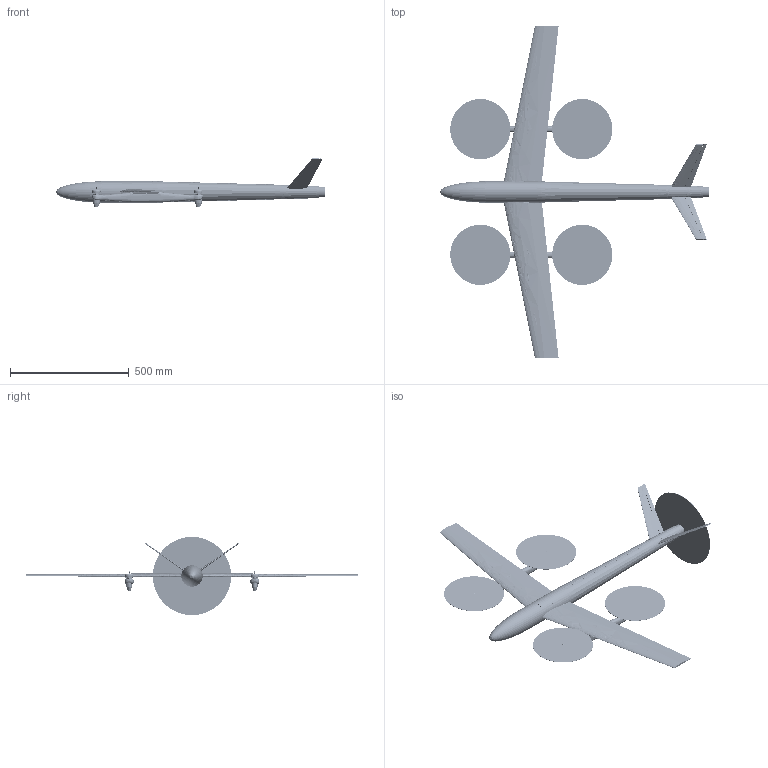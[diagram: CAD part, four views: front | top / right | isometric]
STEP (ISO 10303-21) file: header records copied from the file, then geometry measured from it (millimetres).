
FILE_DESCRIPTION(('Open CASCADE Model'),'2;1');
FILE_NAME('Open CASCADE Shape Model','2026-11-09T19:58:13',('Author'),( 'Open CASCADE'),'Open CASCADE STEP processor 7.9','Open CASCADE 7.9' ,'Unknown');
FILE_SCHEMA(('AUTOMOTIVE_DESIGN { 1 0 10303 214 1 1 1 1 }'));
Length unit declared in the file: millimetre
Products named in the file (112): RescU_R15_Full_Aircraft; Fuselage; Avionics_Adjust_Strips_Fuselage; Avionics_Deck_GFRP_Fuselage; Battery_End_Stops_GFRP_Fuselage; Battery_Insulating_Pads_Foam_Fuselage; Battery_Trays_GFRP_Fuselage; ESC_Deck_GFRP_Fuselage; ESC_Pads_Foam_Fuselage; Frames_Lower_and_Battery_Saddles_GFRP_Fuselage; Frames_Ring_GFRP_Fuselage; Fuselage_Seam_Strips_GFRP_Fuselage; Fuselage_Shell_Left_GFRP_Fuselage; Fuselage_Shell_Right_GFRP_Fuselage; Hatch_Front_GFRP_Fuselage; Hatch_Rear_GFRP_Fuselage; Hatch_Rims_GFRP_Fuselage; Hatch_Tail_GFRP_Fuselage; Joiner_Axial_Stop_Ring_Fuselage; Joiner_Receiver_Sleeves_GFRP_Fuselage; Pusher_Bonded_Collar_GFRP_Fuselage; Pusher_Removable_Plate_6061_Fuselage; REF_Battery_Modules_75x68x47_Fuselage; REF_Camera_AI_PROVISIONAL_Fuselage; REF_ESC_AIR40A_x4_Fuselage; REF_Flight_Controller_Cube_Fuselage; REF_M65A_Cells_6S2P_Fuselage; REF_MT4008_Envelope_AWAITING_CAD_Fuselage; REF_Payload_Mount_Plate_Fuselage; REF_Pusher_Prop_13in_Disk_Fuselage; REF_Receiver_Fuselage; REF_VTail_Servos_Fuselage; VTail_Root_Receivers_GFRP_Fuselage; Wing_Joiner_CFRP_OD12_Fuselage; Wing_Root_Side_Rails_GFRP_Fuselage; Wing_R; Wing_Aft_Collars_GFRP_Wing_R; Wing_Aft_Root_Socket_GFRP_Wing_R; Wing_Aft_Torque_Tube_CFRP_Wing_R; Wing_AntiRotation_Pin_D3_Wing_R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
Assembly tree (114 placements, depth 3):
  RescU_R15_Full_Aircraft
    Fuselage
      Avionics_Adjust_Strips_Fuselage
      Avionics_Deck_GFRP_Fuselage
      Battery_End_Stops_GFRP_Fuselage
      Battery_Insulating_Pads_Foam_Fuselage
      Battery_Trays_GFRP_Fuselage
      ESC_Deck_GFRP_Fuselage
      ESC_Pads_Foam_Fuselage
      Frames_Lower_and_Battery_Saddles_GFRP_Fuselage
      Frames_Ring_GFRP_Fuselage
      Fuselage_Seam_Strips_GFRP_Fuselage
      Fuselage_Shell_Left_GFRP_Fuselage
      Fuselage_Shell_Right_GFRP_Fuselage
      Hatch_Front_GFRP_Fuselage
      Hatch_Rear_GFRP_Fuselage
      Hatch_Rims_GFRP_Fuselage
      Hatch_Tail_GFRP_Fuselage
      Joiner_Axial_Stop_Ring_Fuselage
      Joiner_Receiver_Sleeves_GFRP_Fuselage
      Pusher_Bonded_Collar_GFRP_Fuselage
      Pusher_Removable_Plate_6061_Fuselage
      REF_Battery_Modules_75x68x47_Fuselage
      REF_Camera_AI_PROVISIONAL_Fuselage
      REF_ESC_AIR40A_x4_Fuselage
      REF_Flight_Controller_Cube_Fuselage
      REF_M65A_Cells_6S2P_Fuselage
      REF_MT4008_Envelope_AWAITING_CAD_Fuselage
      REF_Payload_Mount_Plate_Fuselage
      REF_Pusher_Prop_13in_Disk_Fuselage
      REF_Receiver_Fuselage
      REF_VTail_Servos_Fuselage
      VTail_Root_Receivers_GFRP_Fuselage
      Wing_Joiner_CFRP_OD12_Fuselage
      Wing_Root_Side_Rails_GFRP_Fuselage
    Wing_R
      Wing_Aft_Collars_GFRP_Wing_R
      Wing_Aft_Root_Socket_GFRP_Wing_R
      Wing_Aft_Torque_Tube_CFRP_Wing_R
      Wing_AntiRotation_Pin_D3_Wing_R
      Wing_Main_Spar_CFRP_Wing_R
      Wing_Motor_Rib_Doublers_GFRP_Wing_R
      Wing_Motor_Rib_Extended_Tab_CFRP_Wing_R
      Wing_Retention_Lug_GFRP_Wing_R
      Wing_Retention_Screw_M3_Wing_R
      Wing_Root_Adapter_GFRP_Wing_R
      Wing_Root_Diaphragm_GFRP_Wing_R
      Wing_Skin_GFRP_Wing_R
      Wing_Spar_Sleeve_GFRP_Wing_R
      Wing_Wire_Conduit_PTFE_Wing_R
      Wing_XPS_Core_Panels_Wing_R
    Boom_R
      Boom_Lower_Half_Boom_R
      Boom_Upper_Half_Boom_R
      Compression_Tubes_Boom_R
      Boom_Junction_Fillets_Boom_R
      Landing_Feet_TPU_Boom_R
      Motor_Backing_Rings_6061_Boom_R
      Motor_Screws_M3x10_Boom_R
      Pad_Access_Covers_Boom_R
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Bounding box: 1147 x 1400 x 330.2 mm (x, y, z)
Volume: 2989100.6 mm3; surface area: 3214293.4 mm2
Topology: 345 solids, 345 shells, 29886 faces, 64010 edges, 34617 vertices
Faces by surface type: bspline 16282, cylinder 6361, torus 4504, plane 1805, cone 486, sphere 448
Full cylindrical faces by diameter (mm): 2.4 x30, 2.6 x4, 2.8 x2, 3 x34, 3.2 x10, 3.3 x74, 3.4 x20, 3.5 x2, 3.99 x20, 4 x66, 4.4 x4, 4.901 x24, 5 x26, 5.1 x18, 5.2 x14, 5.5 x30, 5.8 x6, 6 x22, 6.1 x5, 6.2 x20, 6.4 x14, 8 x6, 8.4 x4, 9.5 x4, 10 x3, 10.1 x2, 10.3 x2, 10.4 x4, 11.3 x2, 11.5 x10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
Entity records: 1408068 total; most frequent: CARTESIAN_POINT 598231, DIRECTION 103035, ORIENTED_EDGE 91250, PCURVE 91250, DEFINITIONAL_REPRESENTATION 91250, LINE 79647, VECTOR 79647, B_SPLINE_CURVE_WITH_KNOTS 49158
